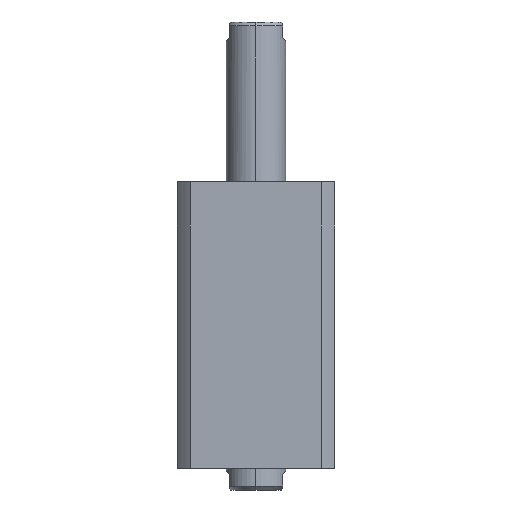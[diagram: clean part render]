
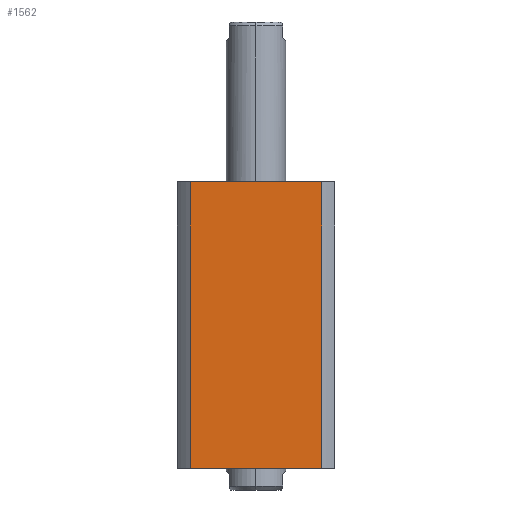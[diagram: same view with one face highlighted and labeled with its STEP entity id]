
A CAD part, left-side view. The second image highlights one B-rep face of the part: STEP entity #1562.
In plain terms, the highlighted planar face has unit normal (-1, 0, 0).
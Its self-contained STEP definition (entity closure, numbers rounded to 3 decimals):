
#507 = EDGE_CURVE ( 'NONE', #9620, #3837, #8140, .T. ) ;
#559 = CARTESIAN_POINT ( 'NONE',  ( -40., 33.226, 72.5 ) ) ;
#624 = DIRECTION ( 'NONE',  ( 0., 0., -1. ) ) ;
#1304 = VECTOR ( 'NONE', #7370, 1000. ) ;
#1449 = ORIENTED_EDGE ( 'NONE', *, *, #5571, .F. ) ;
#1562 = ADVANCED_FACE ( 'NONE', ( #9796 ), #4388, .F. ) ;
#1603 = DIRECTION ( 'NONE',  ( 0., -1., 0. ) ) ;
#1632 = CARTESIAN_POINT ( 'NONE',  ( -40., -33.226, 72.5 ) ) ;
#2158 = LINE ( 'NONE', #4487, #9607 ) ;
#2161 = VECTOR ( 'NONE', #3176, 1000. ) ;
#2880 = VERTEX_POINT ( 'NONE', #4912 ) ;
#2885 = ORIENTED_EDGE ( 'NONE', *, *, #507, .F. ) ;
#2990 = DIRECTION ( 'NONE',  ( 0., 1., 0. ) ) ;
#3176 = DIRECTION ( 'NONE',  ( 0., -1., 0. ) ) ;
#3601 = VERTEX_POINT ( 'NONE', #7707 ) ;
#3694 = EDGE_LOOP ( 'NONE', ( #3984, #2885, #1449, #4430 ) ) ;
#3837 = VERTEX_POINT ( 'NONE', #6616 ) ;
#3984 = ORIENTED_EDGE ( 'NONE', *, *, #9556, .T. ) ;
#4388 = PLANE ( 'NONE',  #8451 ) ;
#4430 = ORIENTED_EDGE ( 'NONE', *, *, #8208, .T. ) ;
#4487 = CARTESIAN_POINT ( 'NONE',  ( -40., 33.226, -72.5 ) ) ;
#4912 = CARTESIAN_POINT ( 'NONE',  ( -40., 33.226, 72.5 ) ) ;
#5118 = DIRECTION ( 'NONE',  ( 1., 0., 0. ) ) ;
#5219 = CARTESIAN_POINT ( 'NONE',  ( -40., 33.226, 72.5 ) ) ;
#5571 = EDGE_CURVE ( 'NONE', #2880, #9620, #7320, .T. ) ;
#5820 = CARTESIAN_POINT ( 'NONE',  ( -40., -33.226, 72.5 ) ) ;
#6616 = CARTESIAN_POINT ( 'NONE',  ( -40., -33.226, -72.5 ) ) ;
#6688 = LINE ( 'NONE', #559, #7528 ) ;
#7320 = LINE ( 'NONE', #7672, #2161 ) ;
#7370 = DIRECTION ( 'NONE',  ( 0., 0., -1. ) ) ;
#7528 = VECTOR ( 'NONE', #624, 1000. ) ;
#7672 = CARTESIAN_POINT ( 'NONE',  ( -40., 33.226, 72.5 ) ) ;
#7707 = CARTESIAN_POINT ( 'NONE',  ( -40., 33.226, -72.5 ) ) ;
#8140 = LINE ( 'NONE', #5820, #1304 ) ;
#8208 = EDGE_CURVE ( 'NONE', #2880, #3601, #6688, .T. ) ;
#8451 = AXIS2_PLACEMENT_3D ( 'NONE', #5219, #5118, #2990 ) ;
#9556 = EDGE_CURVE ( 'NONE', #3601, #3837, #2158, .T. ) ;
#9607 = VECTOR ( 'NONE', #1603, 1000. ) ;
#9620 = VERTEX_POINT ( 'NONE', #1632 ) ;
#9796 = FACE_OUTER_BOUND ( 'NONE', #3694, .T. ) ;
